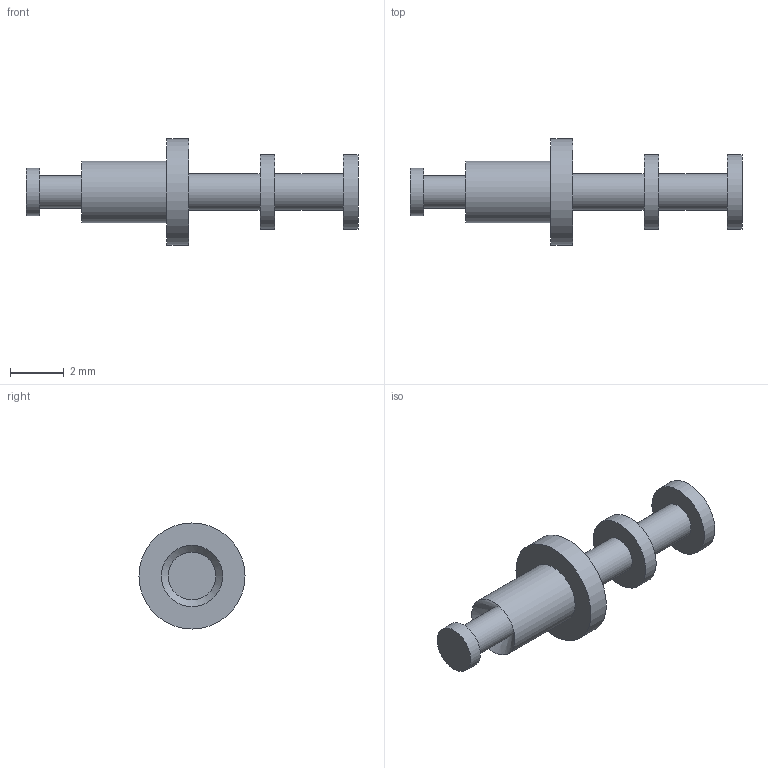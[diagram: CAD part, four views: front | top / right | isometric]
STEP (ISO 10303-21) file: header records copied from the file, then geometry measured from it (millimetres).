
FILE_DESCRIPTION(/* description */ (''),/* implementation_level */ '2;1');
FILE_NAME(/* name */ 'Z:\STEP folder\160-1042-03.ipt.stp',/* time_stamp */ '2016-12-07T10:46:17+00:00',/* author */ ('Paul Karlsons'),/* organization */ (''),/* preprocessor_version */ 'ST-DEVELOPER v15.2',/* originating_system */ 'Autodesk Inventor 2014',/* authorisation */ '');
FILE_SCHEMA (('AUTOMOTIVE_DESIGN { 1 0 10303 214 3 1 1 }'));
Length unit declared in the file: millimetre
Products named in the file (1): 160-1042-03
Bounding box: 12.39 x 3.96 x 3.96 mm (x, y, z)
Volume: 39.6 mm3; surface area: 122.4 mm2
Topology: 1 solids, 1 shells, 17 faces, 25 edges, 16 vertices
Faces by surface type: cylinder 8, plane 8, cone 1
Full cylindrical faces by diameter (mm): 1.219 x1, 1.346 x2, 1.778 x1, 2.286 x1, 2.768 x2, 3.96 x1
Entity records: 355 total; most frequent: DIRECTION 68, CARTESIAN_POINT 50, AXIS2_PLACEMENT_3D 34, EDGE_LOOP 32, ORIENTED_EDGE 32, FACE_BOUND 18, ADVANCED_FACE 17, CIRCLE 16
